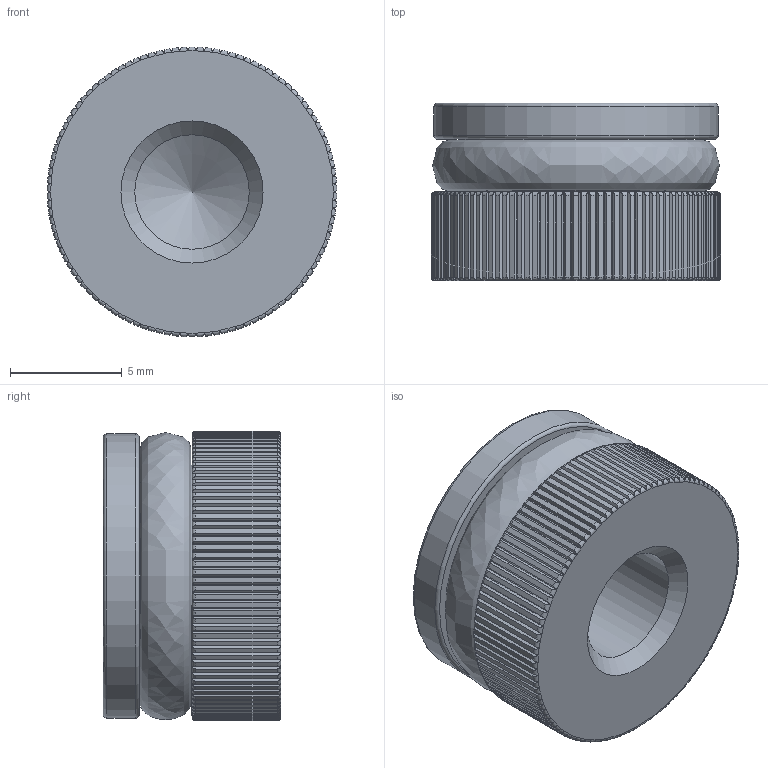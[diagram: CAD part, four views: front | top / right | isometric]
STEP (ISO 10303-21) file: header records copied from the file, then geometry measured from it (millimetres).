
FILE_DESCRIPTION(/* description */ (''),/* implementation_level */ '2;1');
FILE_NAME(/* name */ 'C:/Users/drich/Desktop/TIP-500 v1.step',/* time_stamp */ '2020-01-08T20:03:04-06:00',/* author */ (''),/* organization */ (''),/* preprocessor_version */ 'ST-DEVELOPER v18',/* originating_system */ 'Autodesk Translation Framework v8.12.0.6',/* authorisation */ '');
FILE_SCHEMA (('AUTOMOTIVE_DESIGN { 1 0 10303 214 3 1 1 }'));
Length unit declared in the file: inch
Products named in the file (1): TIP-500
Bounding box: 12.95 x 7.92 x 12.95 mm (x, y, z)
Volume: 883.6 mm3; surface area: 999 mm2
Topology: 2 solids, 2 shells, 344 faces, 1026 edges, 686 vertices
Faces by surface type: plane 224, cylinder 113, torus 4, cone 2, bspline 1
Full cylindrical faces by diameter (mm): 5.118 x1, 9.906 x1, 12.7 x1
Entity records: 14764 total; most frequent: CARTESIAN_POINT 6096, ORIENTED_EDGE 2050, DIRECTION 1523, EDGE_CURVE 1025, VERTEX_POINT 686, AXIS2_PLACEMENT_3D 594, B_SPLINE_CURVE_WITH_KNOTS 440, EDGE_LOOP 347
